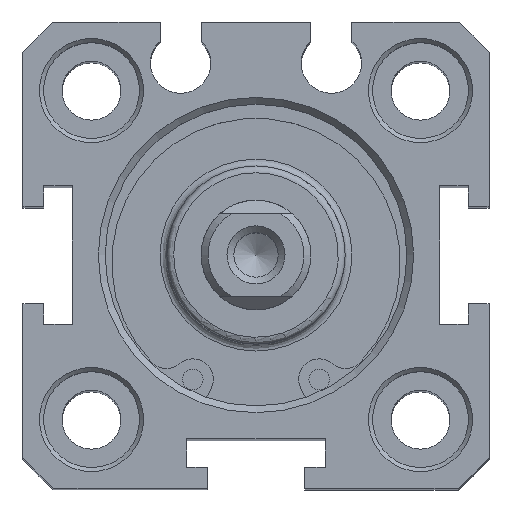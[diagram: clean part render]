
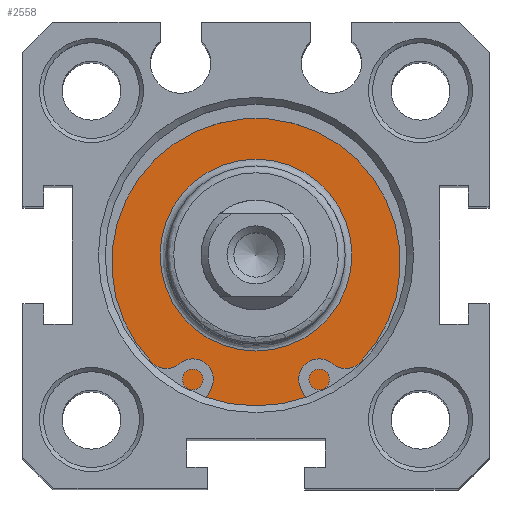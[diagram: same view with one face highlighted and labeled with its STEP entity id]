
A CAD part, top view. The second image highlights one B-rep face of the part: STEP entity #2558.
In plain terms, the highlighted planar face has unit normal (0, 0, 1).
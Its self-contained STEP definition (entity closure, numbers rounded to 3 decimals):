
#2507=CARTESIAN_POINT('',(0.24,8.683,76.8));
#2508=VERTEX_POINT('',#2507);
#2509=CARTESIAN_POINT('',(0.24,1.683,76.8));
#2510=DIRECTION('',(0.0,0.0,1.0));
#2511=DIRECTION('',(0.0,-1.0,0.0));
#2512=AXIS2_PLACEMENT_3D('',#2509,#2510,#2511);
#2513=CIRCLE('',#2512,7.);
#2514=EDGE_CURVE('',#2508,#2508,#2513,.T.);
#2539=CARTESIAN_POINT('',(0.24,10.433,76.8));
#2540=DIRECTION('',(0.0,0.0,1.0));
#2541=DIRECTION('',(1.0,0.0,0.0));
#2542=AXIS2_PLACEMENT_3D('',#2539,#2540,#2541);
#2543=PLANE('',#2542);
#2544=CARTESIAN_POINT('',(0.24,12.683,76.8));
#2545=VERTEX_POINT('',#2544);
#2546=CARTESIAN_POINT('',(0.24,1.683,76.8));
#2547=DIRECTION('',(0.0,0.0,-1.0));
#2548=DIRECTION('',(0.0,1.0,0.0));
#2549=AXIS2_PLACEMENT_3D('',#2546,#2547,#2548);
#2550=CIRCLE('',#2549,11.);
#2551=EDGE_CURVE('',#2545,#2545,#2550,.T.);
#2552=ORIENTED_EDGE('',*,*,#2551,.F.);
#2553=EDGE_LOOP('',(#2552));
#2554=FACE_OUTER_BOUND('',#2553,.T.);
#2555=ORIENTED_EDGE('',*,*,#2514,.F.);
#2556=EDGE_LOOP('',(#2555));
#2557=FACE_BOUND('',#2556,.T.);
#2558=ADVANCED_FACE('',(#2554,#2557),#2543,.T.);
